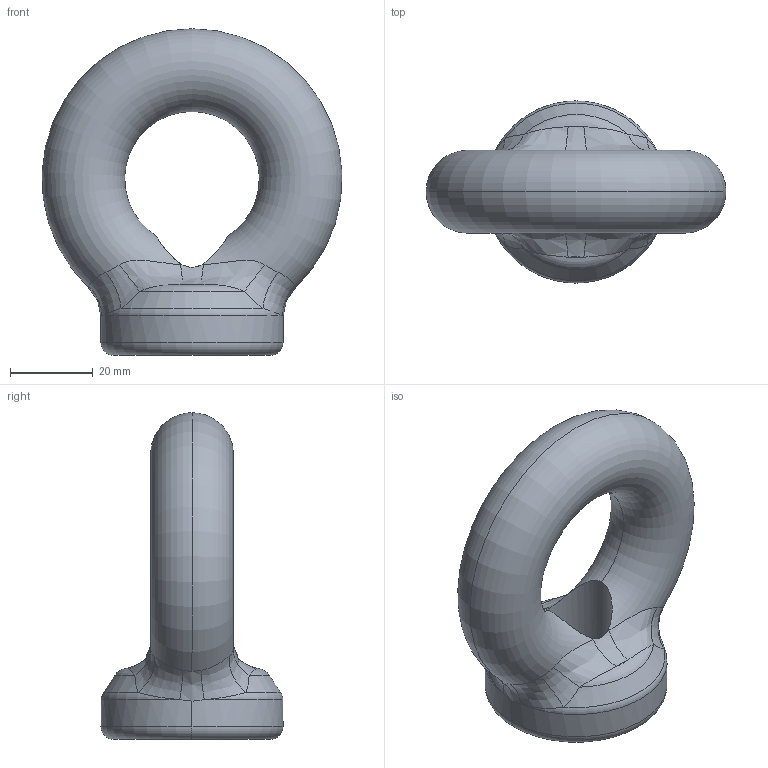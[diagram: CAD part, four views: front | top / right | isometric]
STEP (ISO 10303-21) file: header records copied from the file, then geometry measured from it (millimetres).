
FILE_DESCRIPTION (( 'STEP AP203' ), '1' );
FILE_NAME ('ENMC20.STEP', '2010-02-12T00:17:31', ( ' ' ), ( ' ' ), 'SwSTEP 2.0', 'SolidWorks 2003240', '' );
FILE_SCHEMA (( 'CONFIG_CONTROL_DESIGN' ));
Length unit declared in the file: millimetre
Products named in the file (1): ENMC20
Bounding box: 72.44 x 44 x 78.87 mm (x, y, z)
Volume: 65078.9 mm3; surface area: 13791.9 mm2
Topology: 1 solids, 1 shells, 35 faces, 86 edges, 50 vertices
Faces by surface type: bspline 16, torus 8, cone 6, cylinder 4, plane 1
Entity records: 9917 total; most frequent: CARTESIAN_POINT 9120, ORIENTED_EDGE 172, DIRECTION 118, EDGE_CURVE 86, AXIS2_PLACEMENT_3D 56, VERTEX_POINT 50, B_SPLINE_CURVE_WITH_KNOTS 44, EDGE_LOOP 36
